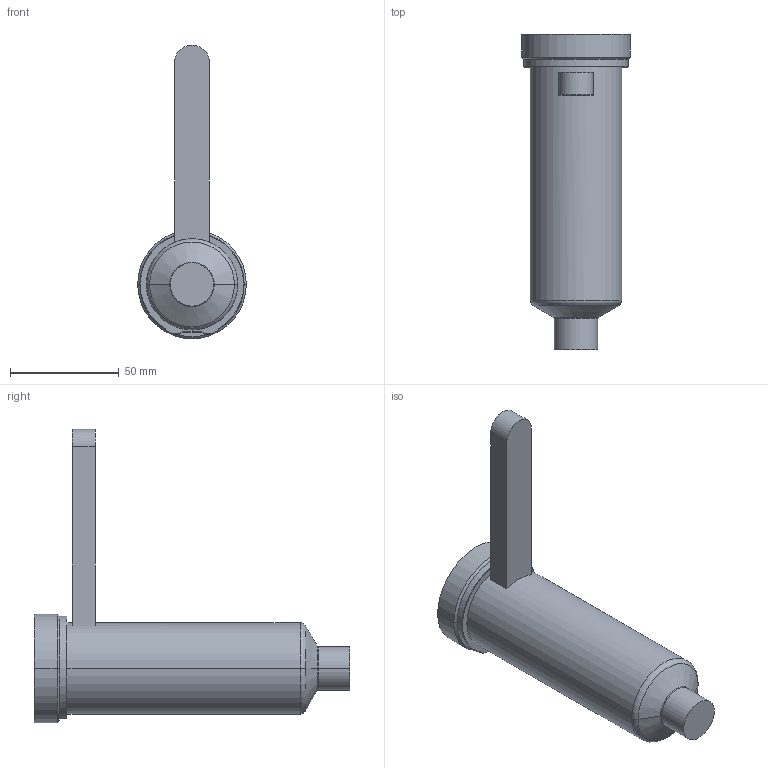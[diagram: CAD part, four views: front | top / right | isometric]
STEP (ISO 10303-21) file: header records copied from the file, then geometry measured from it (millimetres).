
FILE_DESCRIPTION((''),'2;1');
FILE_NAME('EO16_SG_ESG_120_COT','2024-02-19T12:35:23',('sundharh'),(''),'CREO PARAMETRIC BY PTC INC, 2023154','CREO PARAMETRIC BY PTC INC, 2023154','');
FILE_SCHEMA(('CONFIG_CONTROL_DESIGN'));
Length unit declared in the file: millimetre
Products named in the file (1): EO16_SG_ESG_120_COT
Bounding box: 50 x 145 x 135 mm (x, y, z)
Volume: 204040.3 mm3; surface area: 26213.2 mm2
Topology: 1 solids, 1 shells, 31 faces, 67 edges, 40 vertices
Faces by surface type: cylinder 11, plane 9, torus 7, cone 4
Entity records: 967 total; most frequent: CARTESIAN_POINT 234, DIRECTION 159, ORIENTED_EDGE 134, AXIS2_PLACEMENT_3D 67, EDGE_CURVE 67, VERTEX_POINT 40, CIRCLE 36, EDGE_LOOP 33
